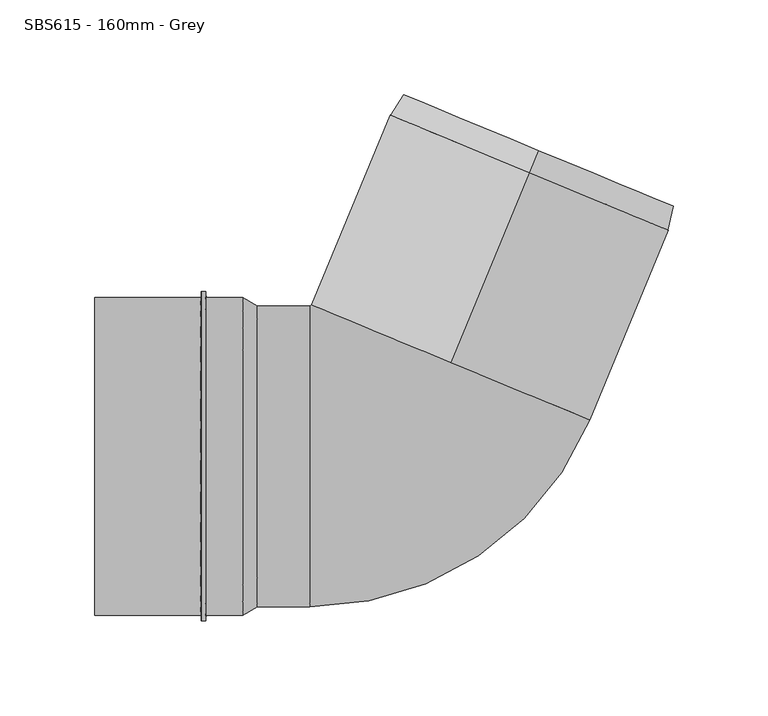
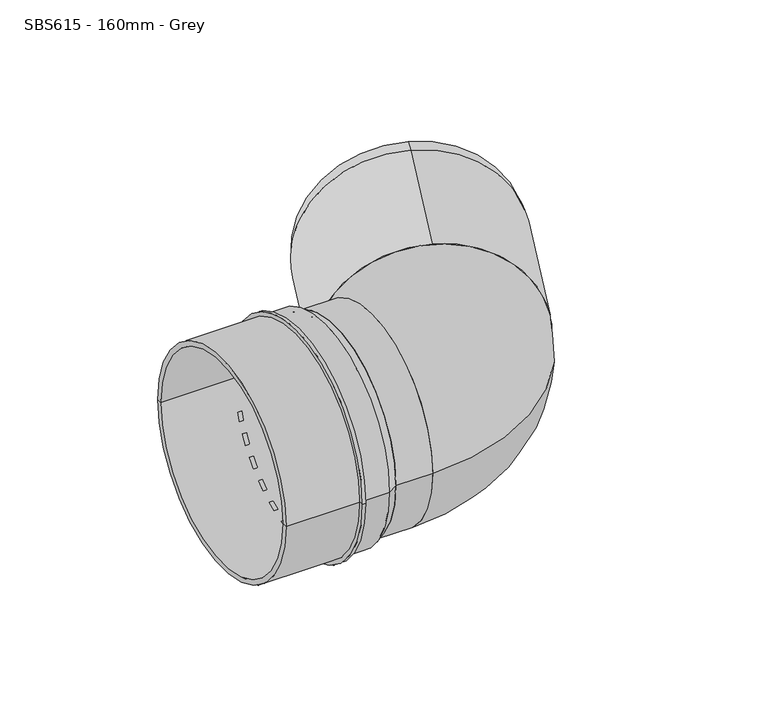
"""IFC4 building model written with IfcOpenShell, lengths in millimetres: pipe fitting geometry, MarleyPlumbingAndDrainage_PipeFitting_ShortRadiusBend : SBS615 - 160mm - Grey."""

from ifc_helpers import new_model, si_unit, point, frame, origin, place, context, project, spatial, polyline, circle_curve, ellipse_curve, trimmed, source, transform, mapped, element, save
from ifc_brep_helpers import plane_surface, cylinder_surface, revolved_surface, advanced_brep


def sbs615_160mm_grey_46f063da(model_context):
    return source(origin(), model_context, "Body", "AdvancedBrep", [
        advanced_brep(
        [(5.7585402, 49.6939837, 0.0), (5.7585402, 49.6939837, 79.5), (5.7585402, 49.6939837, -79.5), (52.1397722, 161.668183, -77.5), (52.1397722, 161.668183, 77.5), (52.1397722, 161.668183, 0.0), (47.2796926, 149.934913, -79.5), (47.2796926, 149.934913, 79.5)],
        [
            (0, 1),
            (1, 2, circle_curve(frame((5.7585402, 49.6939837, 0.0), z_axis=(-0.38268343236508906, -0.9238795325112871, 0.0), x_axis=(0.0, 0.0, 1.0)), 79.5)),
            (2, 0),
            (2, 1, circle_curve(frame((5.7585402, 49.6939837, 0.0), z_axis=(-0.38268343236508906, -0.9238795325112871, 0.0), x_axis=(0.0, 0.0, 1.0)), 79.5)),
            (3, 4, circle_curve(frame((52.1397722, 161.668183, 0.0), z_axis=(0.38268343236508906, 0.9238795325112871, 0.0), x_axis=(0.0, 0.0, 1.0)), 77.5)),
            (4, 5),
            (5, 3),
            (4, 3, circle_curve(frame((52.1397722, 161.668183, 0.0), z_axis=(0.38268343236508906, 0.9238795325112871, 0.0), x_axis=(0.0, 0.0, 1.0)), 77.5)),
            (6, 7, circle_curve(frame((47.2796926, 149.934913, 0.0), z_axis=(0.38268343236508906, 0.9238795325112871, 0.0), x_axis=(0.0, 0.0, 1.0)), 79.5)),
            (7, 4),
            (3, 6),
            (7, 6, circle_curve(frame((47.2796926, 149.934913, 0.0), z_axis=(0.38268343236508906, 0.9238795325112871, 0.0), x_axis=(0.0, 0.0, 1.0)), 79.5)),
            (1, 7),
            (6, 2),
        ],
        [
            plane_surface(frame((5.7585402, 49.6939837, 0.0), z_axis=(-0.38268343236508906, -0.9238795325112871, 0.0), x_axis=(0.0, 0.0, 1.0))),
            plane_surface(frame((52.1397722, 161.668183, 0.0), z_axis=(0.38268343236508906, 0.9238795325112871, 0.0), x_axis=(0.0, 0.0, 1.0))),
            revolved_surface(polyline([(52.1397722, 161.668183, 77.5), (47.2796926, 149.934913, 79.5)]), (-5.7219628, 21.9775977, 0.0), (-0.38268343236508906, -0.9238795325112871, 0.0)),
            cylinder_surface(frame((-5.7219628, 21.9775977, 0.0), z_axis=(-0.38268343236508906, -0.9238795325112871, 0.0), x_axis=(0.0, 0.0, 1.0)), 79.5),
        ],
        [
            (0, [[1, 2, 3]]),
            (0, [[-3, 4, -1]]),
            (1, [[5, 6, 7]]),
            (1, [[8, -7, -6]]),
            (2, [[9, 10, -5, 11]]),
            (2, [[12, -11, -8, -10]]),
            (3, [[-2, 13, -9, 14]]),
            (3, [[-4, -14, -12, -13]]),
        ],
    ),
        advanced_brep(
        [(-96.3137622, 0.0, 0.0), (-96.3137622, -79.5, 0.0), (-96.3137622, 79.5, 0.0), (-68.6137622, 79.5, 0.0), (-68.6137622, -79.5, 0.0), (-68.6137622, 0.0, 0.0)],
        [
            (0, 1),
            (1, 2, circle_curve(frame((-96.3137622, 0.0, 0.0), z_axis=(-1.0, 0.0, 0.0), x_axis=(0.0, -1.0, 0.0)), 79.5)),
            (2, 0),
            (2, 1, circle_curve(frame((-96.3137622, 0.0, 0.0), z_axis=(-1.0, 0.0, 0.0), x_axis=(0.0, -1.0, 0.0)), 79.5)),
            (3, 4, circle_curve(frame((-68.6137622, 0.0, 0.0), z_axis=(1.0, 0.0, 0.0), x_axis=(0.0, -1.0, 0.0)), 79.5)),
            (4, 5),
            (5, 3),
            (4, 3, circle_curve(frame((-68.6137622, 0.0, 0.0), z_axis=(1.0, 0.0, 0.0), x_axis=(0.0, -1.0, 0.0)), 79.5)),
            (1, 4),
            (3, 2),
        ],
        [
            plane_surface(frame((-96.3137622, 0.0, 0.0), z_axis=(-1.0, 0.0, 0.0), x_axis=(0.0, -1.0, 0.0))),
            plane_surface(frame((-68.6137622, 0.0, 0.0), z_axis=(1.0, 0.0, 0.0), x_axis=(0.0, -1.0, 0.0))),
            cylinder_surface(frame((-2730.9718634, 0.0, 0.0), z_axis=(-1.0, 0.0, 0.0), x_axis=(0.0, -1.0, 0.0)), 79.5),
        ],
        [
            (0, [[1, 2, 3]]),
            (0, [[-3, 4, -1]]),
            (1, [[5, 6, 7]]),
            (1, [[8, -7, -6]]),
            (2, [[-2, 9, -5, 10]]),
            (2, [[-4, -10, -8, -9]]),
        ],
    ),
        advanced_brep(
        [(-126.0314895, -87.0, 0.0), (-126.0314895, 87.0, 0.0), (-123.5960348, 87.0, 0.0), (-123.5960348, -87.0, 0.0), (-126.3137622, -81.6606858, 0.0), (-126.3137622, 81.6606858, 0.0), (-123.3137622, -80.65, 0.0), (-123.3137622, 80.65, 0.0), (-126.3137622, 80.65, 0.0), (-126.3137622, -80.65, 0.0), (-123.3137622, 82.5106858, 0.0), (-123.3137622, -82.5106858, 0.0)],
        [
            (0, 1, circle_curve(frame((-126.0314895, 0.0, 0.0), z_axis=(1.0, 0.0, 0.0), x_axis=(0.0, 1.0, 0.0)), 87.0)),
            (1, 2),
            (2, 3, circle_curve(frame((-123.5960348, 0.0, 0.0), z_axis=(-1.0, 0.0, 0.0), x_axis=(0.0, 1.0, 0.0)), 87.0)),
            (3, 0),
            (4, 5, circle_curve(frame((-126.3137622, 0.0, 0.0), z_axis=(1.0, 0.0, 0.0), x_axis=(0.0, 1.0, 0.0)), 81.6606858)),
            (5, 1),
            (0, 4),
            (6, 7, circle_curve(frame((-123.3137622, 0.0, 0.0), z_axis=(1.0, 0.0, 0.0), x_axis=(0.0, 1.0, 0.0)), 80.65)),
            (7, 8),
            (8, 9, circle_curve(frame((-126.3137622, 0.0, 0.0), z_axis=(-1.0, 0.0, 0.0), x_axis=(0.0, 1.0, 0.0)), 80.65)),
            (9, 6),
            (2, 10),
            (10, 11, circle_curve(frame((-123.3137622, 0.0, 0.0), z_axis=(-1.0, 0.0, 0.0), x_axis=(0.0, 1.0, 0.0)), 82.5106858)),
            (11, 3),
            (1, 0, circle_curve(frame((-126.0314895, 0.0, 0.0), z_axis=(1.0, 0.0, 0.0), x_axis=(0.0, -1.0, 0.0)), 87.0)),
            (3, 2, circle_curve(frame((-123.5960348, 0.0, 0.0), z_axis=(-1.0, 0.0, 0.0), x_axis=(0.0, -1.0, 0.0)), 87.0)),
            (5, 4, circle_curve(frame((-126.3137622, 0.0, 0.0), z_axis=(1.0, 0.0, 0.0), x_axis=(0.0, -1.0, 0.0)), 81.6606858)),
            (8, 9, circle_curve(frame((-126.3137622, 0.0, 0.0), z_axis=(1.0, 0.0, 0.0), x_axis=(0.0, -1.0, 0.0)), 80.65)),
            (7, 6, circle_curve(frame((-123.3137622, 0.0, 0.0), z_axis=(1.0, 0.0, 0.0), x_axis=(0.0, -1.0, 0.0)), 80.65)),
            (10, 11, circle_curve(frame((-123.3137622, 0.0, 0.0), z_axis=(1.0, 0.0, 0.0), x_axis=(0.0, -1.0, 0.0)), 82.5106858)),
        ],
        [
            cylinder_surface(frame((-68.6137622, 0.0, 0.0), z_axis=(-1.0, 0.0, 0.0), x_axis=(0.0, 1.0, 0.0)), 87.0),
            revolved_surface(polyline([(-126.0314895, 87.0, 0.0), (-126.3137622, 81.6606858, 0.0)]), (-68.6137622, 0.0, 0.0), (-1.0, 0.0, 0.0)),
            revolved_surface(polyline([(-126.3137622, 80.65, 0.0), (-123.3137622, 80.65, 0.0)]), (-68.6137622, 0.0, 0.0), (-1.0, 0.0, 0.0)),
            revolved_surface(polyline([(-123.3137622, 82.5106858, 0.0), (-123.5960348, 87.0, 0.0)]), (-68.6137622, 0.0, 0.0), (-1.0, 0.0, 0.0)),
            cylinder_surface(frame((-68.6137622, 0.0, 0.0), z_axis=(-1.0, 0.0, 0.0), x_axis=(0.0, -1.0, 0.0)), 87.0),
            revolved_surface(polyline([(-126.0314895, -87.0, 0.0), (-126.3137622, -81.6606858, 0.0)]), (-68.6137622, 0.0, 0.0), (-1.0, 0.0, 0.0)),
            plane_surface(frame((-126.3137622, 0.0, 0.0), z_axis=(-1.0, 0.0, 0.0), x_axis=(0.0, -1.0, 0.0))),
            revolved_surface(polyline([(-126.3137622, -80.65, 0.0), (-123.3137622, -80.65, 0.0)]), (-68.6137622, 0.0, 0.0), (-1.0, 0.0, 0.0)),
            plane_surface(frame((-123.3137622, 0.0, 0.0), z_axis=(1.0, 0.0, 0.0), x_axis=(0.0, -1.0, 0.0))),
            revolved_surface(polyline([(-123.3137622, -82.5106858, 0.0), (-123.5960348, -87.0, 0.0)]), (-68.6137622, 0.0, 0.0), (-1.0, 0.0, 0.0)),
        ],
        [
            (0, [[1, 2, 3, 4]]),
            (1, [[5, 6, -1, 7]]),
            (2, [[8, 9, 10, 11]]),
            (3, [[-3, 12, 13, 14]]),
            (4, [[15, -4, 16, -2]]),
            (5, [[17, -7, -15, -6]]),
            (6, [[-17, -5], [18, -10]]),
            (7, [[19, -11, -18, -9]]),
            (8, [[20, -13], [-19, -8]]),
            (9, [[-16, -14, -20, -12]]),
        ],
    ),
        advanced_brep(
        [(-182.2137622, 80.15, 0.0), (-182.2137622, -80.15, 0.0), (-182.2137622, -84.0, 0.0), (-182.2137622, 84.0, 0.0), (-104.9680864, 80.15, 0.0), (-104.9680864, -80.15, 0.0), (-100.1637622, 0.0, 0.0), (-100.1637622, -77.3053344, 0.0), (-100.1637622, 77.3053344, 0.0), (-96.3137622, 79.5, 0.0), (-96.3137622, -79.5, 0.0), (-96.3137622, 0.0, 0.0), (-103.9137622, -84.0, 0.0), (-103.9137622, 84.0, 0.0)],
        [
            (0, 1, circle_curve(frame((-182.2137622, 0.0, 0.0), z_axis=(1.0, 0.0, 0.0), x_axis=(0.0, -1.0, 0.0)), 80.15)),
            (1, 2),
            (2, 3, circle_curve(frame((-182.2137622, 0.0, 0.0), z_axis=(-1.0, 0.0, 0.0), x_axis=(0.0, -1.0, 0.0)), 84.0)),
            (3, 0),
            (1, 0, circle_curve(frame((-182.2137622, 0.0, 0.0), z_axis=(1.0, 0.0, 0.0), x_axis=(0.0, -1.0, 0.0)), 80.15)),
            (3, 2, circle_curve(frame((-182.2137622, 0.0, 0.0), z_axis=(-1.0, 0.0, 0.0), x_axis=(0.0, -1.0, 0.0)), 84.0)),
            (4, 5, circle_curve(frame((-104.9680864, 0.0, 0.0), z_axis=(1.0, 0.0, 0.0), x_axis=(0.0, -1.0, 0.0)), 80.15)),
            (5, 1),
            (0, 4),
            (5, 4, circle_curve(frame((-104.9680864, 0.0, 0.0), z_axis=(1.0, 0.0, 0.0), x_axis=(0.0, -1.0, 0.0)), 80.15)),
            (6, 7),
            (7, 8, circle_curve(frame((-100.1637622, 0.0, 0.0), z_axis=(-1.0, 0.0, 0.0), x_axis=(0.0, -1.0, 0.0)), 77.3053344)),
            (8, 6),
            (8, 7, circle_curve(frame((-100.1637622, 0.0, 0.0), z_axis=(-1.0, 0.0, 0.0), x_axis=(0.0, -1.0, 0.0)), 77.3053344)),
            (9, 10, circle_curve(frame((-96.3137622, 0.0, 0.0), z_axis=(1.0, 0.0, 0.0), x_axis=(0.0, -1.0, 0.0)), 79.5)),
            (10, 11),
            (11, 9),
            (10, 9, circle_curve(frame((-96.3137622, 0.0, 0.0), z_axis=(1.0, 0.0, 0.0), x_axis=(0.0, -1.0, 0.0)), 79.5)),
            (2, 12),
            (12, 13, circle_curve(frame((-103.9137622, 0.0, 0.0), z_axis=(-1.0, 0.0, 0.0), x_axis=(0.0, -1.0, 0.0)), 84.0)),
            (13, 3),
            (13, 12, circle_curve(frame((-103.9137622, 0.0, 0.0), z_axis=(-1.0, 0.0, 0.0), x_axis=(0.0, -1.0, 0.0)), 84.0)),
            (7, 5),
            (4, 8),
            (12, 10),
            (9, 13),
        ],
        [
            plane_surface(frame((-182.2137622, 0.0, 0.0), z_axis=(-1.0, 0.0, 0.0), x_axis=(0.0, -1.0, 0.0))),
            revolved_surface(polyline([(-182.21376220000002, -80.15, 0.0), (-104.96808640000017, -80.15, 0.0)]), (-2721.982083, 0.0, 0.0), (-1.0, 0.0, 0.0)),
            plane_surface(frame((-100.1637622, 0.0, 0.0), z_axis=(-1.0, 0.0, 0.0), x_axis=(0.0, -1.0, 0.0))),
            plane_surface(frame((-96.3137622, 0.0, 0.0), z_axis=(1.0, 0.0, 0.0), x_axis=(0.0, -1.0, 0.0))),
            cylinder_surface(frame((-2721.982083, 0.0, 0.0), z_axis=(-1.0, 0.0, 0.0), x_axis=(0.0, -1.0, 0.0)), 84.0),
            revolved_surface(polyline([(-104.9680864, -80.15, 0.0), (-100.1637622, -77.3053344, 0.0)]), (-2721.982083, 0.0, 0.0), (-1.0, 0.0, 0.0)),
            revolved_surface(polyline([(-96.3137622, -79.5, 0.0), (-103.9137622, -84.0, 0.0)]), (-2721.982083, 0.0, 0.0), (-1.0, 0.0, 0.0)),
        ],
        [
            (0, [[1, 2, 3, 4]]),
            (0, [[5, -4, 6, -2]]),
            (1, [[7, 8, -1, 9]]),
            (1, [[10, -9, -5, -8]]),
            (2, [[11, 12, 13]]),
            (2, [[-13, 14, -11]]),
            (3, [[15, 16, 17]]),
            (3, [[18, -17, -16]]),
            (4, [[-3, 19, 20, 21]]),
            (4, [[-6, -21, 22, -19]]),
            (5, [[-12, 23, -7, 24]]),
            (5, [[-14, -24, -10, -23]]),
            (6, [[-20, 25, -15, 26]]),
            (6, [[-22, -26, -18, -25]]),
        ],
    ),
        advanced_brep(
        [(-68.6137622, -79.5, 0.0), (-68.6137622, 79.5, 0.0), (79.206963, 19.2706508, 0.0), (-67.6898826, 80.1173166, 0.0)],
        [
            (0, 1, circle_curve(frame((-68.6137622, 0.0, 0.0), z_axis=(-1.0, 0.0, 0.0), x_axis=(0.0, 1.0, 0.0)), 79.5)),
            (1, 0, circle_curve(frame((-68.6137622, 0.0, 0.0), z_axis=(-1.0, 0.0, 0.0), x_axis=(0.0, 1.0, 0.0)), 79.5)),
            (2, 3, circle_curve(frame((5.7585402, 49.6939837, 0.0), z_axis=(0.3826834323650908, 0.9238795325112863, 0.0), x_axis=(-0.9238795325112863, 0.3826834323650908, 0.0)), 79.5)),
            (3, 2, circle_curve(frame((5.7585402, 49.6939837, 0.0), z_axis=(0.3826834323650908, 0.9238795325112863, 0.0), x_axis=(-0.9238795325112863, 0.3826834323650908, 0.0)), 79.5)),
            (3, 1, circle_curve(frame((-68.6137622, 80.5, 0.0), z_axis=(0.0, 0.0, -1.0), x_axis=(0.0, -1.0, 0.0)), 1.0)),
            (0, 2, circle_curve(frame((-68.6137622, 80.5, 0.0), z_axis=(0.0, 0.0, 1.0), x_axis=(0.0, -1.0, 0.0)), 160.0)),
        ],
        [
            plane_surface(frame((-68.6137622, 0.0, 0.0), z_axis=(-1.0, 0.0, 0.0), x_axis=(0.0, 0.0, 1.0))),
            plane_surface(frame((5.7585402, 49.6939837, 0.0), z_axis=(0.3826834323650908, 0.9238795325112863, 0.0), x_axis=(0.0, 0.0, 1.0))),
            revolved_surface(trimmed(ellipse_curve(frame((-68.6137622, 0.0, 0.0), z_axis=(-1.0, 0.0, 0.0), x_axis=(0.0, 1.0, 0.0)), 79.5, 79.5), [point((-68.6137622, -79.5, 0.0))], [point((-68.6137622, 79.5, 0.0))], True, "CARTESIAN"), (-68.6137622, 80.5, 0.0), (0.0, 0.0, 1.0)),
            revolved_surface(trimmed(ellipse_curve(frame((-68.6137622, 0.0, 0.0), z_axis=(-1.0, 0.0, 0.0), x_axis=(0.0, 1.0, 0.0)), 79.5, 79.5), [point((-68.6137622, 79.5, 0.0))], [point((-68.6137622, -79.5, 0.0))], True, "CARTESIAN"), (-68.6137622, 80.5, 0.0), (0.0, 0.0, 1.0)),
        ],
        [
            (0, [[1, 2]]),
            (1, [[3, 4]]),
            (2, [[5, -1, 6, -4]]),
            (3, [[-6, -2, -5, -3]]),
        ],
    ),
    ])


if __name__ == "__main__":
    model = new_model("IFC4")
    model_context = context("Model", 3, world=origin())
    ifc_project = project(units=[si_unit("LENGTHUNIT", "METRE", prefix="MILLI")], contexts=[model_context])
    site = spatial("IfcSite", under=ifc_project)
    building = spatial("IfcBuilding", under=site)
    placement = place(None, origin())
    sbs615_160mm_grey_shape = sbs615_160mm_grey_46f063da(model_context)
    element("IfcPipeFitting", 1, ObjectType="MarleyPlumbingAndDrainage_PipeFitting_ShortRadiusBend : SBS615 - 160mm - Grey", at=placement, inside=building, context=model_context, shape_type="MappedRepresentation", body=[
        mapped(sbs615_160mm_grey_shape, transform((0.0, 0.0, 0.0), x_axis=(1.0, 0.0, 0.0), y_axis=(0.0, 1.0, 0.0), z_axis=(0.0, 0.0, 1.0))),
    ])
    save(model, "model.ifc")
